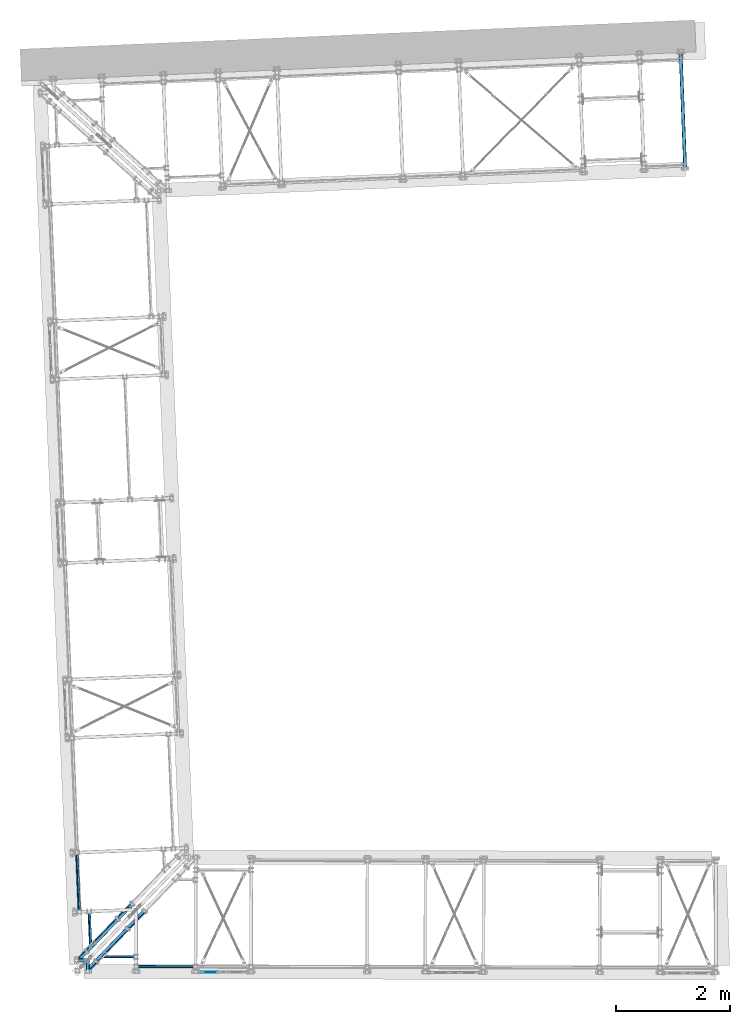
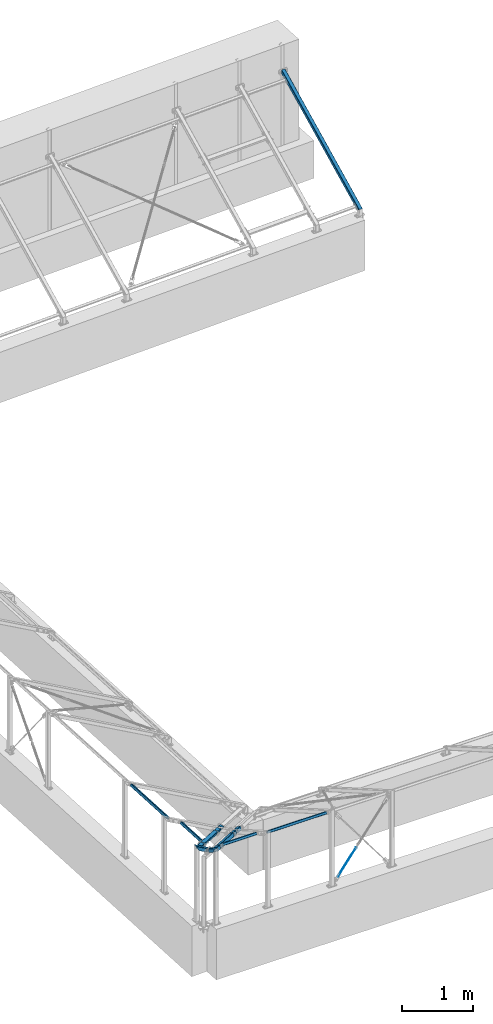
# One storey, part 18 of 288: 14 members, 2 beams, 26 openings.
"""IFC2X3 building model written with IfcOpenShell, lengths in millimetres."""

from ifc_helpers import new_model, entity, si_unit, converted_unit, frame, frame_2d, origin, origin_with_axes, origin_2d, origin_2d_with_axis, place, context, project, spatial, hollow_rectangle, circle, extrude, clip, halfspace, material, element, save


model = new_model("IFC2X3")

# Units and contexts
model_context = context("Model", 3, precision=1e-09, world=origin_with_axes())
ifc_project = project(units=[si_unit("LENGTHUNIT", "METRE", prefix="MILLI"), si_unit("AREAUNIT", "SQUARE_METRE"), si_unit("VOLUMEUNIT", "CUBIC_METRE"), converted_unit("PLANEANGLEUNIT", "DEGREE", entity("IfcPlaneAngleMeasure", 0.01745329), si_unit("PLANEANGLEUNIT", "RADIAN"), dimensions=[0, 0, 0, 0, 0, 0, 0])], contexts=[model_context])

# Site, building, storey
site_placement = place(None, origin_with_axes())
site = spatial("IfcSite", under=ifc_project, at=site_placement, Name="Remont ?wietlik?w nad MC w NCPP w Opolu", CompositionType="ELEMENT")
building_placement = place(site_placement, origin_with_axes())
building = spatial("IfcBuilding", under=site, at=building_placement, Name="Konstrukcja 1", CompositionType="ELEMENT")
storey_placement = place(building_placement, origin_with_axes())
storey = spatial("IfcBuildingStorey", under=building, at=storey_placement, Name="Default Storey", CompositionType="ELEMENT", Elevation=0.0)

# Member, openings
ifc_material_1 = material(Name="S235")
member_1_placement = place(None, frame((10475.909792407, 16044.908030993, 1322.257170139), z_axis=(0.03403559, -0.863328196, -0.503493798), x_axis=(-0.019834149, 0.503102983, -0.86399884)))
member_1 = element("IfcMember", 1, at=member_1_placement, inside=storey, material=ifc_material_1, Name="Horizontal_Beam", ObjectType="Horizontal_Beam", context=model_context, shape_type="Clipping", body=[
    clip(clip(clip(extrude(hollow_rectangle(XDim=60.0, YDim=60.0, WallThickness=3.0, InnerFilletRadius=3.0, OuterFilletRadius=6.0, at=origin_2d()), origin(), (0.0, 0.0, 1.0), 2457.283181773), halfspace(frame((1121.067740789, -11099.833168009, 702.403194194), z_axis=(-0.503493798, -2.27e-07, 0.86399884), x_axis=(0.0, 1.0, 2.09e-07)), True)), halfspace(frame((1112.628117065, -11099.836700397, 716.885646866), z_axis=(-0.503493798, 0.0, 0.86399884), x_axis=(0.0, 1.0, 0.0)), True)), halfspace(frame((-10130.498223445, -11099.8365971, 8229.950949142), z_axis=(-0.498250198, 0.0, -0.867033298), x_axis=(0.0, -1.0, 0.0)), True)),
])
opening_1_placement = place(member_1_placement, frame((8.204728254, 26.273066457, 2309.113512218), z_axis=(-0.001741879, -0.999995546, 0.002423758), x_axis=(0.999998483, -0.001741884, 0.0)))
element("IfcOpeningElement", 2, at=opening_1_placement, cuts=member_1, ObjectType="Opening", context=model_context, shape_type="SweptSolid", body=[
    extrude(circle(Radius=7.001, at=frame_2d((-7.000999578, -0.00243022), x_axis=(1.0, 0.0))), origin(), (0.0, 0.0, -1.0), 4.232758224),
])
opening_2_placement = place(member_1_placement, frame((8.177296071, 26.467015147, 2389.113272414), z_axis=(-0.001741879, -0.999995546, 0.002423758), x_axis=(0.999998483, -0.001741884, 0.0)))
element("IfcOpeningElement", 3, at=opening_2_placement, cuts=member_1, ObjectType="Opening", context=model_context, shape_type="SweptSolid", body=[
    extrude(circle(Radius=7.001, at=frame_2d((-7.000999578, -0.00243022), x_axis=(1.0, 0.0))), origin(), (0.0, 0.0, -1.0), 4.232758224),
])
opening_3_placement = place(member_1_placement, frame((8.204728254, 26.273066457, 2309.113512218), z_axis=(-0.001741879, -0.999995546, 0.002423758), x_axis=(0.999998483, -0.001741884, 0.0)))
element("IfcOpeningElement", 4, at=opening_3_placement, cuts=member_1, ObjectType="Opening", context=model_context, shape_type="SweptSolid", body=[
    extrude(circle(Radius=7.001, at=frame_2d((-7.000999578, -0.00243022), x_axis=(1.0, 0.0))), origin(), (0.0, 0.0, -1.0), 4.038808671),
])
opening_4_placement = place(member_1_placement, frame((8.177296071, 26.467015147, 2389.113272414), z_axis=(-0.001741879, -0.999995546, 0.002423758), x_axis=(0.999998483, -0.001741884, 0.0)))
element("IfcOpeningElement", 5, at=opening_4_placement, cuts=member_1, ObjectType="Opening", context=model_context, shape_type="SweptSolid", body=[
    extrude(circle(Radius=7.001, at=frame_2d((-7.000999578, -0.00243022), x_axis=(1.0, 0.0))), origin(), (0.0, 0.0, -1.0), 4.038808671),
])
opening_5_placement = place(member_1_placement, frame((8.105440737, -30.726933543, 2309.251667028), z_axis=(-0.001741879, -0.999995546, 0.002423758), x_axis=(0.999998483, -0.001741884, 0.0)))
element("IfcOpeningElement", 6, at=opening_5_placement, cuts=member_1, ObjectType="Opening", context=model_context, shape_type="SweptSolid", body=[
    extrude(circle(Radius=7.001, at=frame_2d((-7.000999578, -0.00243022), x_axis=(1.0, 0.0))), origin(), (0.0, 0.0, -1.0), 4.232758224),
])
opening_6_placement = place(member_1_placement, frame((8.078008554, -30.532984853, 2389.251427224), z_axis=(-0.001741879, -0.999995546, 0.002423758), x_axis=(0.999998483, -0.001741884, 0.0)))
element("IfcOpeningElement", 7, at=opening_6_placement, cuts=member_1, ObjectType="Opening", context=model_context, shape_type="SweptSolid", body=[
    extrude(circle(Radius=7.001, at=frame_2d((-7.000999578, -0.00243022), x_axis=(1.0, 0.0))), origin(), (0.0, 0.0, -1.0), 4.232758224),
])
opening_7_placement = place(member_1_placement, frame((8.105440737, -30.726933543, 2309.251667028), z_axis=(-0.001741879, -0.999995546, 0.002423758), x_axis=(0.999998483, -0.001741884, 0.0)))
element("IfcOpeningElement", 8, at=opening_7_placement, cuts=member_1, ObjectType="Opening", context=model_context, shape_type="SweptSolid", body=[
    extrude(circle(Radius=7.001, at=frame_2d((-7.000999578, -0.00243022), x_axis=(1.0, 0.0))), origin(), (0.0, 0.0, -1.0), 4.038808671),
])
opening_8_placement = place(member_1_placement, frame((8.078008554, -30.532984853, 2389.251427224), z_axis=(-0.001741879, -0.999995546, 0.002423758), x_axis=(0.999998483, -0.001741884, 0.0)))
element("IfcOpeningElement", 9, at=opening_8_placement, cuts=member_1, ObjectType="Opening", context=model_context, shape_type="SweptSolid", body=[
    extrude(circle(Radius=7.001, at=frame_2d((-7.000999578, -0.00243022), x_axis=(1.0, 0.0))), origin(), (0.0, 0.0, -1.0), 4.038808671),
])
opening_9_placement = place(member_1_placement, frame((7.009224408, 26.273066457, 159.922472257), z_axis=(-0.001741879, -0.999995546, 0.002423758), x_axis=(0.999998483, -0.001741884, 0.0)))
element("IfcOpeningElement", 10, at=opening_9_placement, cuts=member_1, ObjectType="Opening", context=model_context, shape_type="SweptSolid", body=[
    extrude(circle(Radius=7.001, at=frame_2d((-7.000999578, -0.00243022), x_axis=(1.0, 0.0))), origin(), (0.0, 0.0, -1.0), 4.232758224),
])
opening_10_placement = place(member_1_placement, frame((6.981792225, 26.467015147, 239.922232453), z_axis=(-0.001741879, -0.999995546, 0.002423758), x_axis=(0.999998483, -0.001741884, 0.0)))
element("IfcOpeningElement", 11, at=opening_10_placement, cuts=member_1, ObjectType="Opening", context=model_context, shape_type="SweptSolid", body=[
    extrude(circle(Radius=7.001, at=frame_2d((-7.000999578, -0.00243022), x_axis=(1.0, 0.0))), origin(), (0.0, 0.0, -1.0), 4.232758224),
])
opening_11_placement = place(member_1_placement, frame((7.009224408, 26.273066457, 159.922472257), z_axis=(-0.001741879, -0.999995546, 0.002423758), x_axis=(0.999998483, -0.001741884, 0.0)))
element("IfcOpeningElement", 12, at=opening_11_placement, cuts=member_1, ObjectType="Opening", context=model_context, shape_type="SweptSolid", body=[
    extrude(circle(Radius=7.001, at=frame_2d((-7.000999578, -0.00243022), x_axis=(1.0, 0.0))), origin(), (0.0, 0.0, -1.0), 4.038808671),
])
opening_12_placement = place(member_1_placement, frame((6.981792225, 26.467015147, 239.922232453), z_axis=(-0.001741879, -0.999995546, 0.002423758), x_axis=(0.999998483, -0.001741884, 0.0)))
element("IfcOpeningElement", 13, at=opening_12_placement, cuts=member_1, ObjectType="Opening", context=model_context, shape_type="SweptSolid", body=[
    extrude(circle(Radius=7.001, at=frame_2d((-7.000999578, -0.00243022), x_axis=(1.0, 0.0))), origin(), (0.0, 0.0, -1.0), 4.038808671),
])
opening_13_placement = place(member_1_placement, frame((6.909936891, -30.726933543, 160.060627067), z_axis=(-0.001741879, -0.999995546, 0.002423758), x_axis=(0.999998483, -0.001741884, 0.0)))
element("IfcOpeningElement", 14, at=opening_13_placement, cuts=member_1, ObjectType="Opening", context=model_context, shape_type="SweptSolid", body=[
    extrude(circle(Radius=7.001, at=frame_2d((-7.000999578, -0.00243022), x_axis=(1.0, 0.0))), origin(), (0.0, 0.0, -1.0), 4.232758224),
])
opening_14_placement = place(member_1_placement, frame((6.882504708, -30.532984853, 240.060387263), z_axis=(-0.001741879, -0.999995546, 0.002423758), x_axis=(0.999998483, -0.001741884, 0.0)))
element("IfcOpeningElement", 15, at=opening_14_placement, cuts=member_1, ObjectType="Opening", context=model_context, shape_type="SweptSolid", body=[
    extrude(circle(Radius=7.001, at=frame_2d((-7.000999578, -0.00243022), x_axis=(1.0, 0.0))), origin(), (0.0, 0.0, -1.0), 4.232758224),
])
opening_15_placement = place(member_1_placement, frame((6.909936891, -30.726933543, 160.060627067), z_axis=(-0.001741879, -0.999995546, 0.002423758), x_axis=(0.999998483, -0.001741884, 0.0)))
element("IfcOpeningElement", 16, at=opening_15_placement, cuts=member_1, ObjectType="Opening", context=model_context, shape_type="SweptSolid", body=[
    extrude(circle(Radius=7.001, at=frame_2d((-7.000999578, -0.00243022), x_axis=(1.0, 0.0))), origin(), (0.0, 0.0, -1.0), 4.038808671),
])
opening_16_placement = place(member_1_placement, frame((6.882504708, -30.532984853, 240.060387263), z_axis=(-0.001741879, -0.999995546, 0.002423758), x_axis=(0.999998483, -0.001741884, 0.0)))
element("IfcOpeningElement", 17, at=opening_16_placement, cuts=member_1, ObjectType="Opening", context=model_context, shape_type="SweptSolid", body=[
    extrude(circle(Radius=7.001, at=frame_2d((-7.000999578, -0.00243022), x_axis=(1.0, 0.0))), origin(), (0.0, 0.0, -1.0), 4.038808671),
])

member_2_placement = place(None, frame((590.71245607, 790.718484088, 838.036712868), z_axis=(0.639589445, 0.665373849, -0.384971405), x_axis=(0.499581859, 0.020836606, 0.866016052)))
member_2 = element("IfcMember", 18, at=member_2_placement, inside=storey, material=ifc_material_1, Name="Horizontal_Beam", ObjectType="Horizontal_Beam", context=model_context, shape_type="Clipping", body=[
    clip(extrude(hollow_rectangle(XDim=60.0, YDim=60.0, WallThickness=3.0, InnerFilletRadius=3.0, OuterFilletRadius=6.0, at=origin_2d()), origin(), (0.0, 0.0, -1.0), 915.990485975), halfspace(frame((-1037.338361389, 512.330457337, -831.063079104), z_axis=(0.0, 0.0, 1.0), x_axis=(-0.345727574, -0.938334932, 0.0)), True)),
])
opening_17_placement = place(member_2_placement, frame((-3.135056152, 30.5, 31.433513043), z_axis=(0.0, -1.0, 0.0), x_axis=(-2.4755e-05, 0.0, -1.0)))
element("IfcOpeningElement", 19, at=opening_17_placement, cuts=member_2, ObjectType="Opening", context=model_context, shape_type="SweptSolid", body=[
    extrude(circle(Radius=7.001, at=origin_2d_with_axis()), origin(), (0.0, 0.0, 1.0), 4.0),
])
opening_18_placement = place(member_2_placement, frame((-3.135056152, -26.5, 31.433513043), z_axis=(0.0, -1.0, 0.0), x_axis=(-2.4755e-05, 0.0, -1.0)))
element("IfcOpeningElement", 20, at=opening_18_placement, cuts=member_2, ObjectType="Opening", context=model_context, shape_type="SweptSolid", body=[
    extrude(circle(Radius=7.001, at=origin_2d_with_axis()), origin(), (0.0, 0.0, 1.0), 4.0),
])
opening_19_placement = place(member_2_placement, frame((-0.191197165, 30.5, -614.206878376), z_axis=(0.0, -1.0, 0.0), x_axis=(-2.4755e-05, 0.0, -1.0)))
element("IfcOpeningElement", 21, at=opening_19_placement, cuts=member_2, ObjectType="Opening", context=model_context, shape_type="SweptSolid", body=[
    extrude(circle(Radius=7.001, at=origin_2d_with_axis()), origin(), (0.0, 0.0, 1.0), 4.0),
])
opening_20_placement = place(member_2_placement, frame((-0.191197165, -26.5, -614.206878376), z_axis=(0.0, -1.0, 0.0), x_axis=(-2.4755e-05, 0.0, -1.0)))
element("IfcOpeningElement", 22, at=opening_20_placement, cuts=member_2, ObjectType="Opening", context=model_context, shape_type="SweptSolid", body=[
    extrude(circle(Radius=7.001, at=origin_2d_with_axis()), origin(), (0.0, 0.0, 1.0), 4.0),
])
opening_21_placement = place(member_2_placement, frame((-0.194569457, 30.5, -746.160462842), z_axis=(0.0, -1.0, 0.0), x_axis=(-2.4755e-05, 0.0, -1.0)))
element("IfcOpeningElement", 23, at=opening_21_placement, cuts=member_2, ObjectType="Opening", context=model_context, shape_type="SweptSolid", body=[
    extrude(circle(Radius=7.001, at=origin_2d_with_axis()), origin(), (0.0, 0.0, 1.0), 4.0),
])
opening_22_placement = place(member_2_placement, frame((-0.194569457, -26.5, -746.160462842), z_axis=(0.0, -1.0, 0.0), x_axis=(-2.4755e-05, 0.0, -1.0)))
element("IfcOpeningElement", 24, at=opening_22_placement, cuts=member_2, ObjectType="Opening", context=model_context, shape_type="SweptSolid", body=[
    extrude(circle(Radius=7.001, at=origin_2d_with_axis()), origin(), (0.0, 0.0, 1.0), 4.0),
])

# Members
member_3_placement = place(None, frame((43.176510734, 221.10917905, 1167.600753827), z_axis=(0.639589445, 0.665373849, -0.384971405), x_axis=(0.499581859, 0.020836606, 0.866016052)))
element("IfcMember", 25, at=member_3_placement, inside=storey, material=ifc_material_1, Name="Horizontal_Beam", ObjectType="Horizontal_Beam", context=model_context, shape_type="Clipping", body=[
    clip(extrude(hollow_rectangle(XDim=60.0, YDim=60.0, WallThickness=3.0, InnerFilletRadius=3.0, OuterFilletRadius=6.0, at=origin_2d()), origin(), (0.0, 0.0, -1.0), 307.035444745), halfspace(frame((-1037.338361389, 433.875348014, 339.784563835), z_axis=(0.0, -0.769917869, 0.63814299), x_axis=(-0.500016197, -0.552642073, -0.666761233)), True)),
])
member_4_placement = place(None, frame((-201.308866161, 63.565922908, 1312.428468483), z_axis=(-0.865263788, -0.036088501, 0.500016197), x_axis=(-0.499581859, -0.020836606, -0.866016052)))
element("IfcMember", 26, at=member_4_placement, inside=storey, material=ifc_material_1, Name="Horizontal_Beam", ObjectType="Horizontal_Beam", context=model_context, shape_type="Clipping", body=[
    clip(clip(extrude(hollow_rectangle(XDim=60.0, YDim=60.0, WallThickness=3.0, InnerFilletRadius=3.0, OuterFilletRadius=6.0, at=origin_2d()), origin(), (0.0, 0.0, -1.0), 386.915249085), halfspace(frame((581.168314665, 71.899621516, -1091.490976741), z_axis=(-0.86603008, 0.0, -0.499991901), x_axis=(0.0, -1.0, 0.0)), True)), halfspace(frame((1041.807933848, 62.559893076, -820.385573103), z_axis=(0.345727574, -0.722440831, 0.598791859), x_axis=(0.361232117, 0.691432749, 0.625645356)), True)),
])
member_5_placement = place(None, frame((71.642081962, -198.741486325, 1312.425372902), z_axis=(0.0, -0.866025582, 0.499999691), x_axis=(0.0, -0.499999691, -0.866025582)))
element("IfcMember", 27, at=member_5_placement, inside=storey, material=ifc_material_1, Name="Horizontal_Beam", ObjectType="Horizontal_Beam", context=model_context, shape_type="Clipping", body=[
    clip(clip(extrude(hollow_rectangle(XDim=60.0, YDim=60.0, WallThickness=3.0, InnerFilletRadius=3.0, OuterFilletRadius=6.0, at=origin_2d()), origin(), (0.0, 0.0, -1.0), 386.117694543), halfspace(frame((581.239073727, -71.642081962, -1091.59015426), z_axis=(-0.86602535, 0.0, -0.500000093), x_axis=(0.0, -1.0, 0.0)), True)), halfspace(frame((1041.753397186, -62.21655726, -820.48106807), z_axis=(0.346499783, 0.72093759, 0.600155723), x_axis=(-0.360468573, 0.692999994, -0.624350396)), True)),
])
member_6_placement = place(None, frame((22.272150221, -153.503990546, 1285.257028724), z_axis=(-0.639790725, -0.665583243, 0.384274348), x_axis=(0.0, 0.499999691, 0.866025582)))
element("IfcMember", 28, at=member_6_placement, inside=storey, material=ifc_material_1, Name="-", ObjectType="-", context=model_context, shape_type="Clipping", body=[
    clip(clip(extrude(hollow_rectangle(XDim=60.0, YDim=60.0, WallThickness=3.0, InnerFilletRadius=3.0, OuterFilletRadius=6.0, at=origin_2d()), origin(), (0.0, 0.0, -1.0), 382.521579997), halfspace(frame((-1036.313518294, 435.199789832, -646.841777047), z_axis=(0.0, -0.768549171, -0.639790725), x_axis=(0.499999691, 0.554075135, -0.665583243)), True)), halfspace(frame((-1036.313518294, 513.317496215, -297.594173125), z_axis=(0.0, 0.0, 1.0), x_axis=(-0.346499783, -0.938050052, 0.0)), True)),
])

# Member, openings
member_7_placement = place(None, frame((174.330422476, 4.684357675, 1193.927018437), z_axis=(-0.639790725, -0.665583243, 0.384274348), x_axis=(0.0, 0.499999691, 0.866025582)))
member_7 = element("IfcMember", 29, at=member_7_placement, inside=storey, material=ifc_material_1, Name="-", ObjectType="-", context=model_context, shape_type="Clipping", body=[
    clip(clip(extrude(hollow_rectangle(XDim=60.0, YDim=60.0, WallThickness=3.0, InnerFilletRadius=3.0, OuterFilletRadius=6.0, at=origin_2d()), origin(), (0.0, 0.0, -1.0), 1007.511893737), halfspace(frame((-1036.313518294, 513.317496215, -923.084486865), z_axis=(0.0, 0.0, 1.0), x_axis=(-0.346499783, -0.938050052, 0.0)), True)), halfspace(frame((-1036.313518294, 513.317496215, -84.927406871), z_axis=(0.0, 0.0, -1.0), x_axis=(0.346499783, 0.938050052, 0.0)), True)),
])
opening_23_placement = place(member_7_placement, frame((0.664371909, 30.5, -180.383483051), z_axis=(0.0, -1.0, 0.0), x_axis=(-1.439e-06, 0.0, -1.0)))
element("IfcOpeningElement", 30, at=opening_23_placement, cuts=member_7, ObjectType="Opening", context=model_context, shape_type="SweptSolid", body=[
    extrude(circle(Radius=7.001, at=origin_2d_with_axis()), origin(), (0.0, 0.0, 1.0), 4.0),
])
opening_24_placement = place(member_7_placement, frame((0.664371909, -26.5, -180.383483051), z_axis=(0.0, -1.0, 0.0), x_axis=(-1.439e-06, 0.0, -1.0)))
element("IfcOpeningElement", 31, at=opening_24_placement, cuts=member_7, ObjectType="Opening", context=model_context, shape_type="SweptSolid", body=[
    extrude(circle(Radius=7.001, at=origin_2d_with_axis()), origin(), (0.0, 0.0, 1.0), 4.0),
])
opening_25_placement = place(member_7_placement, frame((0.636178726, 30.5, -312.359335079), z_axis=(0.0, -1.0, 0.0), x_axis=(-1.439e-06, 0.0, -1.0)))
element("IfcOpeningElement", 32, at=opening_25_placement, cuts=member_7, ObjectType="Opening", context=model_context, shape_type="SweptSolid", body=[
    extrude(circle(Radius=7.001, at=origin_2d_with_axis()), origin(), (0.0, 0.0, 1.0), 4.0),
])
opening_26_placement = place(member_7_placement, frame((0.636178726, -26.5, -312.359335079), z_axis=(0.0, -1.0, 0.0), x_axis=(-1.439e-06, 0.0, -1.0)))
element("IfcOpeningElement", 33, at=opening_26_placement, cuts=member_7, ObjectType="Opening", context=model_context, shape_type="SweptSolid", body=[
    extrude(circle(Radius=7.001, at=origin_2d_with_axis()), origin(), (0.0, 0.0, 1.0), 4.0),
])

# Members
member_8_placement = place(None, frame((726.25170063, 578.855785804, 862.429262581), z_axis=(-0.639790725, -0.665583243, 0.384274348), x_axis=(0.0, 0.499999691, 0.866025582)))
element("IfcMember", 34, at=member_8_placement, inside=storey, material=ifc_material_1, Name="-", ObjectType="-", context=model_context, shape_type="Clipping", body=[
    clip(clip(extrude(hollow_rectangle(XDim=60.0, YDim=60.0, WallThickness=3.0, InnerFilletRadius=3.0, OuterFilletRadius=6.0, at=origin_2d()), origin(), (0.0, 0.0, -1.0), 568.865656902), halfspace(frame((-1036.313518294, -171.932110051, -51.930334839), z_axis=(0.0, 0.768549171, 0.639790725), x_axis=(-0.499999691, -0.554075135, 0.665583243)), True)), halfspace(frame((-1036.313518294, 513.317496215, -84.427406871), z_axis=(0.0, 0.0, -1.0), x_axis=(0.346499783, 0.938050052, 0.0)), True)),
])
member_9_placement = place(None, frame((902.245596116, 761.944697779, 756.722916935), z_axis=(-0.639790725, -0.665583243, 0.384274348), x_axis=(0.0, 0.499999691, 0.866025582)))
element("IfcMember", 35, at=member_9_placement, inside=storey, material=ifc_material_1, Name="-", ObjectType="-", context=model_context, shape_type="Clipping", body=[
    clip(clip(extrude(hollow_rectangle(XDim=60.0, YDim=60.0, WallThickness=3.0, InnerFilletRadius=3.0, OuterFilletRadius=6.0, at=origin_2d()), origin(), (0.0, 0.0, -1.0), 335.631247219), halfspace(frame((-1036.313518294, -218.046597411, 184.761352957), z_axis=(0.0, -0.768549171, -0.639790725), x_axis=(0.499999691, 0.554075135, -0.665583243)), True)), halfspace(frame((-1036.313518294, 513.317496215, -250.703840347), z_axis=(0.0, 0.0, 1.0), x_axis=(-0.346499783, -0.938050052, 0.0)), True)),
])
member_10_placement = place(None, frame((843.291698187, 1053.480203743, 686.00827272), z_axis=(0.639589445, 0.665373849, -0.384971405), x_axis=(0.499581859, 0.020836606, 0.866016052)))
element("IfcMember", 36, at=member_10_placement, inside=storey, material=ifc_material_1, Name="-", ObjectType="-", context=model_context, shape_type="Clipping", body=[
    clip(clip(extrude(hollow_rectangle(XDim=60.0, YDim=60.0, WallThickness=3.0, InnerFilletRadius=3.0, OuterFilletRadius=6.0, at=origin_2d()), origin(), (0.0, 0.0, -1.0), 455.324803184), halfspace(frame((-1037.338361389, -174.358228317, -407.06622578), z_axis=(0.0, 0.769917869, -0.63814299), x_axis=(0.500016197, 0.552642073, 0.666761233)), True)), halfspace(frame((-1037.338361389, 512.330457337, -370.897396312), z_axis=(0.0, 0.0, 1.0), x_axis=(-0.345727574, -0.938334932, 0.0)), True)),
])
member_11_placement = place(None, frame((896.731928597, 1109.074823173, 653.84238766), z_axis=(0.639589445, 0.665373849, -0.384971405), x_axis=(0.499581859, 0.020836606, 0.866016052)))
element("IfcMember", 37, at=member_11_placement, inside=storey, material=ifc_material_1, Name="-", ObjectType="-", context=model_context, shape_type="Clipping", body=[
    clip(clip(extrude(hollow_rectangle(XDim=60.0, YDim=60.0, WallThickness=3.0, InnerFilletRadius=3.0, OuterFilletRadius=6.0, at=origin_2d()), origin(), (0.0, 0.0, -1.0), 310.545113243), halfspace(frame((-1037.338361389, -220.554840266, -452.330329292), z_axis=(0.0, -0.769917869, 0.63814299), x_axis=(-0.500016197, -0.552642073, -0.666761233)), True)), halfspace(frame((-1037.338361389, 512.330457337, -84.927406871), z_axis=(0.0, 0.0, -1.0), x_axis=(0.345727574, 0.938334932, 0.0)), True)),
])
member_12_placement = place(None, frame((132.170155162, 62.061512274, 1119.859357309), z_axis=(0.041662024, -0.999131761, -1.7472e-05), x_axis=(0.8652733, 0.036089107, -0.499999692)))
element("IfcMember", 38, at=member_12_placement, inside=storey, material=ifc_material_1, Name="TubeBracing", ObjectType="TubeBracing", context=model_context, shape_type="Clipping", body=[
    clip(extrude(hollow_rectangle(XDim=40.0, YDim=40.0, WallThickness=3.0, InnerFilletRadius=3.0, OuterFilletRadius=6.0, at=origin_2d()), origin(), (0.0, 0.0, -1.0), 826.399862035), halfspace(frame((91.498067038, -1037.14826561, -367.959296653), z_axis=(-0.638142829, -3.277e-06, -0.769918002), x_axis=(-0.703544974, -0.406179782, 0.583131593)), True)),
])
member_13_placement = place(None, frame((-78.563633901, 958.458317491, 1219.875097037), z_axis=(0.041662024, -0.999131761, -1.7472e-05), x_axis=(0.8652733, 0.036089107, -0.499999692)))
element("IfcMember", 39, at=member_13_placement, inside=storey, material=ifc_material_1, Name="TubeBracing", ObjectType="TubeBracing", context=model_context, shape_type="SweptSolid", body=[
    extrude(hollow_rectangle(XDim=40.0, YDim=40.0, WallThickness=3.0, InnerFilletRadius=3.0, OuterFilletRadius=6.0, at=origin_2d()), origin(), (0.0, 0.0, -1.0), 963.524549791),
])

# Beams
beam_1_placement = place(None, frame((1924.285562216, -42.694250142, 1219.976114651), z_axis=(0.999997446, -0.002260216, 3.354e-06), x_axis=(0.001959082, 0.866023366, -0.499999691)))
element("IfcBeam", 40, at=beam_1_placement, inside=storey, material=ifc_material_1, Name="TubeBracing", ObjectType="TubeBracing", context=model_context, shape_type="SweptSolid", body=[
    extrude(hollow_rectangle(XDim=40.0, YDim=40.0, WallThickness=3.0, InnerFilletRadius=3.0, OuterFilletRadius=6.0, at=origin_2d()), origin(), (0.0, 0.0, -1.0), 963.476579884),
])
beam_2_placement = place(None, frame((883.20345901, 132.864385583, 1119.972683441), z_axis=(0.999997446, -0.002260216, 3.354e-06), x_axis=(0.001959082, 0.866023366, -0.499999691)))
element("IfcBeam", 41, at=beam_2_placement, inside=storey, material=ifc_material_1, Name="TubeBracing", ObjectType="TubeBracing", context=model_context, shape_type="Clipping", body=[
    clip(extrude(hollow_rectangle(XDim=40.0, YDim=40.0, WallThickness=3.0, InnerFilletRadius=3.0, OuterFilletRadius=6.0, at=origin_2d()), origin(), (0.0, 0.0, -1.0), 826.273473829), halfspace(frame((90.65609151, -1036.873659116, -457.729541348), z_axis=(-0.638283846, 0.000867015, 0.769800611), x_axis=(0.703641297, 0.4062449, 0.582969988)), True)),
])

# Member
ifc_material_2 = material(Name="S275J2")
member_14_placement = place(None, frame((2378.30675019, -138.304946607, 555.566864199), z_axis=(0.598669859, -0.001410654, 0.800994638), x_axis=(-0.002356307, -0.999997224, 0.0)))
element("IfcMember", 42, at=member_14_placement, inside=storey, material=ifc_material_2, Name="Tension_Rod#1", ObjectType="Tension_Rod#1", context=model_context, shape_type="Clipping", body=[
    clip(clip(extrude(circle(Radius=6.0, at=origin_2d()), origin(), (0.0, 0.0, -1.0), 651.970562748), halfspace(frame((-132.700541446, -1572.664641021, -33.486281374), z_axis=(0.0, 0.0, -1.0), x_axis=(1.0, 0.0, 0.0)), True)), halfspace(frame((-132.700541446, -1572.664641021, -533.484281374), z_axis=(0.0, 0.0, 1.0), x_axis=(-1.0, 0.0, 0.0)), True)),
])

save(model, "model.ifc")
